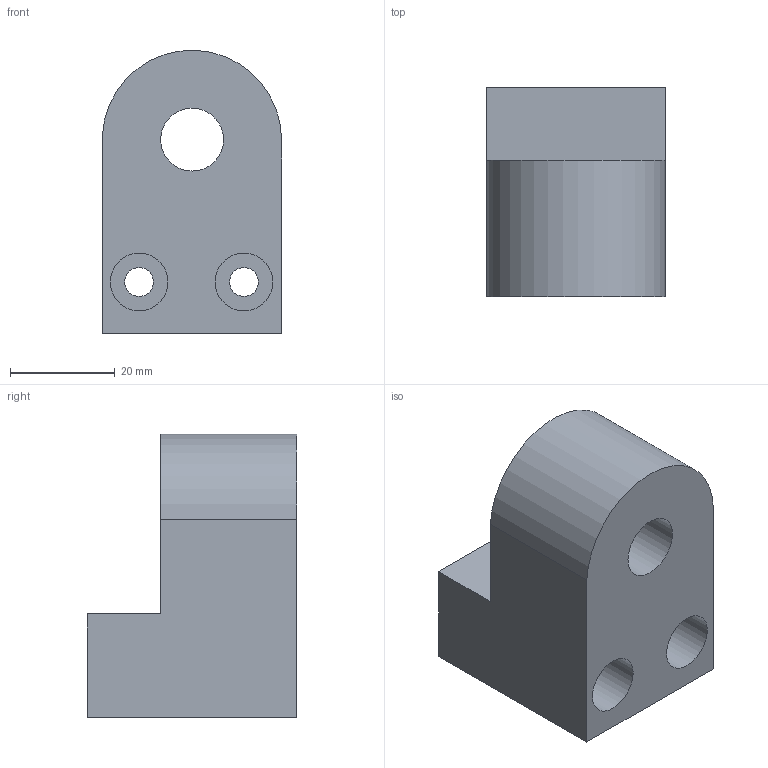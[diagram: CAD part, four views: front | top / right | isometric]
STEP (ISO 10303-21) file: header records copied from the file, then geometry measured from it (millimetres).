
FILE_DESCRIPTION(/* description */ (''),/* implementation_level */ '2;1');
FILE_NAME(/* name */ 'Z - BC Idler Support v2.step',/* time_stamp */ '2023-03-23T06:43:56-06:00',/* author */ (''),/* organization */ (''),/* preprocessor_version */ 'ST-DEVELOPER v19.2',/* originating_system */ 'Autodesk Translation Framework v11.17.0.187',/* authorisation */ '');
FILE_SCHEMA (('AUTOMOTIVE_DESIGN { 1 0 10303 214 3 1 1 }'));
Length unit declared in the file: millimetre
Products named in the file (2): Z - BC Idler Support; BC Z Idler Support
Assembly tree (1 placements, depth 2):
  Z - BC Idler Support
    BC Z Idler Support
Bounding box: 34.18 x 40 x 54.05 mm (x, y, z)
Volume: 42403.3 mm3; surface area: 12633.6 mm2
Topology: 1 solids, 1 shells, 19 faces, 39 edges, 26 vertices
Faces by surface type: plane 11, cylinder 8
Full cylindrical faces by diameter (mm): 5.5 x2, 11 x2, 12 x1, 20 x1, 22.5 x1
Entity records: 581 total; most frequent: DIRECTION 99, CARTESIAN_POINT 87, ORIENTED_EDGE 78, EDGE_CURVE 39, AXIS2_PLACEMENT_3D 38, EDGE_LOOP 29, VERTEX_POINT 26, LINE 23
